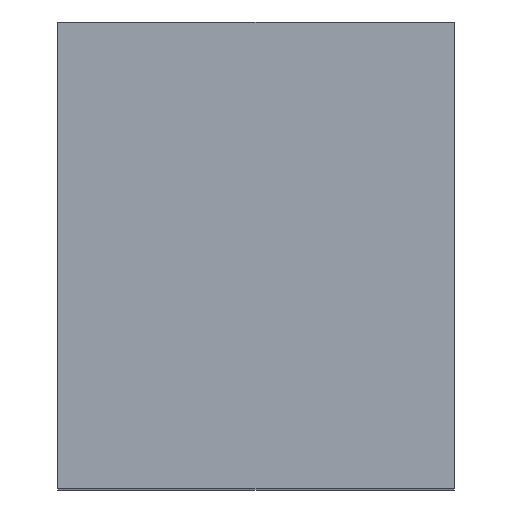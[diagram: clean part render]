
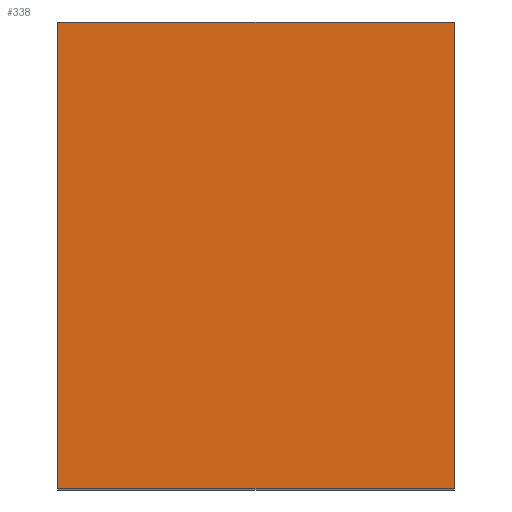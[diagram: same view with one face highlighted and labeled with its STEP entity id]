
A CAD part, top view. The second image highlights one B-rep face of the part: STEP entity #338.
In plain terms, the highlighted planar face has unit normal (0, 0, 1).
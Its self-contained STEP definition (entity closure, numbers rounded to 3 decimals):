
#24 = VERTEX_POINT('',#25);
#25 = CARTESIAN_POINT('',(22.9,1.45,-21.));
#32 = PLANE('',#33);
#33 = AXIS2_PLACEMENT_3D('',#34,#35,#36);
#34 = CARTESIAN_POINT('',(22.9,1.45,-27.));
#35 = DIRECTION('',(1.,0.,-0.));
#36 = DIRECTION('',(0.,0.,1.));
#44 = PLANE('',#45);
#45 = AXIS2_PLACEMENT_3D('',#46,#47,#48);
#46 = CARTESIAN_POINT('',(22.9,1.45,-27.));
#47 = DIRECTION('',(-0.,1.,0.));
#48 = DIRECTION('',(0.,0.,1.));
#85 = VERTEX_POINT('',#86);
#86 = CARTESIAN_POINT('',(22.9,5.7,-21.));
#100 = PLANE('',#101);
#101 = AXIS2_PLACEMENT_3D('',#102,#103,#104);
#102 = CARTESIAN_POINT('',(22.9,5.7,-27.));
#103 = DIRECTION('',(-0.,1.,0.));
#104 = DIRECTION('',(0.,0.,1.));
#112 = EDGE_CURVE('',#24,#85,#113,.T.);
#113 = SURFACE_CURVE('',#114,(#118,#125),.PCURVE_S1.);
#114 = LINE('',#115,#116);
#115 = CARTESIAN_POINT('',(22.9,1.45,-21.));
#116 = VECTOR('',#117,1.);
#117 = DIRECTION('',(-0.,1.,0.));
#118 = PCURVE('',#32,#119);
#119 = DEFINITIONAL_REPRESENTATION('',(#120),#124);
#120 = LINE('',#121,#122);
#121 = CARTESIAN_POINT('',(6.,0.));
#122 = VECTOR('',#123,1.);
#123 = DIRECTION('',(0.,-1.));
#124 = ( GEOMETRIC_REPRESENTATION_CONTEXT(2) 
PARAMETRIC_REPRESENTATION_CONTEXT() REPRESENTATION_CONTEXT('2D SPACE',''
  ) );
#125 = PCURVE('',#126,#131);
#126 = PLANE('',#127);
#127 = AXIS2_PLACEMENT_3D('',#128,#129,#130);
#128 = CARTESIAN_POINT('',(22.9,1.45,-21.));
#129 = DIRECTION('',(0.,0.,1.));
#130 = DIRECTION('',(1.,0.,-0.));
#131 = DEFINITIONAL_REPRESENTATION('',(#132),#136);
#132 = LINE('',#133,#134);
#133 = CARTESIAN_POINT('',(0.,0.));
#134 = VECTOR('',#135,1.);
#135 = DIRECTION('',(0.,1.));
#136 = ( GEOMETRIC_REPRESENTATION_CONTEXT(2) 
PARAMETRIC_REPRESENTATION_CONTEXT() REPRESENTATION_CONTEXT('2D SPACE',''
  ) );
#144 = VERTEX_POINT('',#145);
#145 = CARTESIAN_POINT('',(26.51,1.45,-21.));
#152 = PLANE('',#153);
#153 = AXIS2_PLACEMENT_3D('',#154,#155,#156);
#154 = CARTESIAN_POINT('',(26.51,1.45,-27.));
#155 = DIRECTION('',(1.,0.,-0.));
#156 = DIRECTION('',(0.,0.,1.));
#195 = VERTEX_POINT('',#196);
#196 = CARTESIAN_POINT('',(26.51,5.7,-21.));
#217 = EDGE_CURVE('',#144,#195,#218,.T.);
#218 = SURFACE_CURVE('',#219,(#223,#230),.PCURVE_S1.);
#219 = LINE('',#220,#221);
#220 = CARTESIAN_POINT('',(26.51,1.45,-21.));
#221 = VECTOR('',#222,1.);
#222 = DIRECTION('',(-0.,1.,0.));
#223 = PCURVE('',#152,#224);
#224 = DEFINITIONAL_REPRESENTATION('',(#225),#229);
#225 = LINE('',#226,#227);
#226 = CARTESIAN_POINT('',(6.,0.));
#227 = VECTOR('',#228,1.);
#228 = DIRECTION('',(0.,-1.));
#229 = ( GEOMETRIC_REPRESENTATION_CONTEXT(2) 
PARAMETRIC_REPRESENTATION_CONTEXT() REPRESENTATION_CONTEXT('2D SPACE',''
  ) );
#230 = PCURVE('',#126,#231);
#231 = DEFINITIONAL_REPRESENTATION('',(#232),#236);
#232 = LINE('',#233,#234);
#233 = CARTESIAN_POINT('',(3.61,0.));
#234 = VECTOR('',#235,1.);
#235 = DIRECTION('',(0.,1.));
#236 = ( GEOMETRIC_REPRESENTATION_CONTEXT(2) 
PARAMETRIC_REPRESENTATION_CONTEXT() REPRESENTATION_CONTEXT('2D SPACE',''
  ) );
#263 = EDGE_CURVE('',#24,#144,#264,.T.);
#264 = SURFACE_CURVE('',#265,(#269,#276),.PCURVE_S1.);
#265 = LINE('',#266,#267);
#266 = CARTESIAN_POINT('',(22.9,1.45,-21.));
#267 = VECTOR('',#268,1.);
#268 = DIRECTION('',(1.,0.,-0.));
#269 = PCURVE('',#44,#270);
#270 = DEFINITIONAL_REPRESENTATION('',(#271),#275);
#271 = LINE('',#272,#273);
#272 = CARTESIAN_POINT('',(6.,0.));
#273 = VECTOR('',#274,1.);
#274 = DIRECTION('',(0.,1.));
#275 = ( GEOMETRIC_REPRESENTATION_CONTEXT(2) 
PARAMETRIC_REPRESENTATION_CONTEXT() REPRESENTATION_CONTEXT('2D SPACE',''
  ) );
#276 = PCURVE('',#126,#277);
#277 = DEFINITIONAL_REPRESENTATION('',(#278),#282);
#278 = LINE('',#279,#280);
#279 = CARTESIAN_POINT('',(0.,0.));
#280 = VECTOR('',#281,1.);
#281 = DIRECTION('',(1.,0.));
#282 = ( GEOMETRIC_REPRESENTATION_CONTEXT(2) 
PARAMETRIC_REPRESENTATION_CONTEXT() REPRESENTATION_CONTEXT('2D SPACE',''
  ) );
#310 = EDGE_CURVE('',#85,#195,#311,.T.);
#311 = SURFACE_CURVE('',#312,(#316,#323),.PCURVE_S1.);
#312 = LINE('',#313,#314);
#313 = CARTESIAN_POINT('',(22.9,5.7,-21.));
#314 = VECTOR('',#315,1.);
#315 = DIRECTION('',(1.,0.,-0.));
#316 = PCURVE('',#100,#317);
#317 = DEFINITIONAL_REPRESENTATION('',(#318),#322);
#318 = LINE('',#319,#320);
#319 = CARTESIAN_POINT('',(6.,0.));
#320 = VECTOR('',#321,1.);
#321 = DIRECTION('',(0.,1.));
#322 = ( GEOMETRIC_REPRESENTATION_CONTEXT(2) 
PARAMETRIC_REPRESENTATION_CONTEXT() REPRESENTATION_CONTEXT('2D SPACE',''
  ) );
#323 = PCURVE('',#126,#324);
#324 = DEFINITIONAL_REPRESENTATION('',(#325),#329);
#325 = LINE('',#326,#327);
#326 = CARTESIAN_POINT('',(0.,4.25));
#327 = VECTOR('',#328,1.);
#328 = DIRECTION('',(1.,0.));
#329 = ( GEOMETRIC_REPRESENTATION_CONTEXT(2) 
PARAMETRIC_REPRESENTATION_CONTEXT() REPRESENTATION_CONTEXT('2D SPACE',''
  ) );
#338 = ADVANCED_FACE('',(#339),#126,.T.);
#339 = FACE_BOUND('',#340,.T.);
#340 = EDGE_LOOP('',(#341,#342,#343,#344));
#341 = ORIENTED_EDGE('',*,*,#112,.F.);
#342 = ORIENTED_EDGE('',*,*,#263,.T.);
#343 = ORIENTED_EDGE('',*,*,#217,.T.);
#344 = ORIENTED_EDGE('',*,*,#310,.F.);
